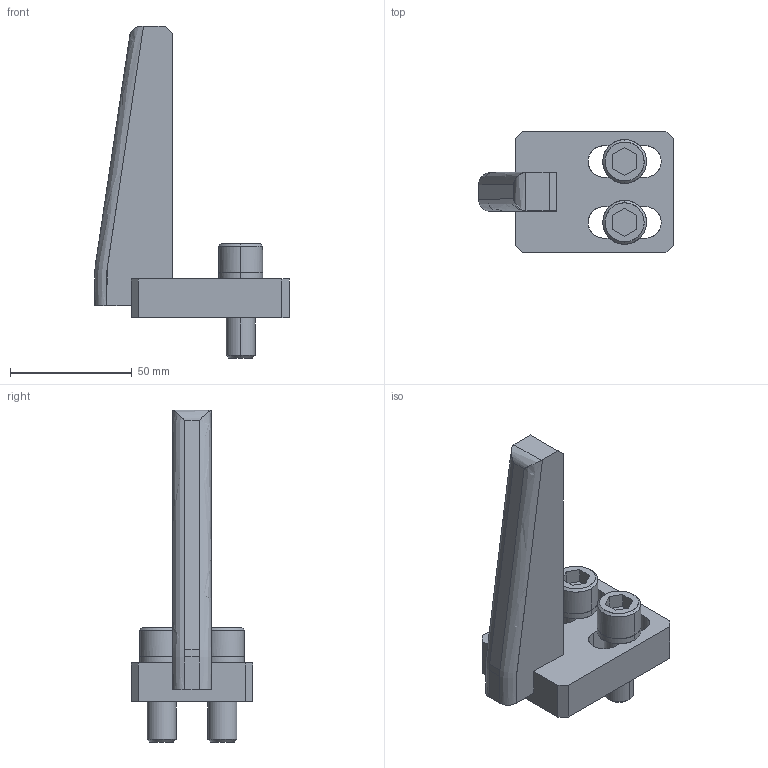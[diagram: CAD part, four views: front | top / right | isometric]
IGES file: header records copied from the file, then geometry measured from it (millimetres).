
Global section: file name: E:\UnigraphicsGraphicData\MISUMI_PRESS-PARTS\IGES\3d_ngga-120-20-15_01475_r00.igs; native system: NX V5.0; preprocessor: UGS NX IGES V5.0; author: MISUMI; date: 20110105.162027; units: millimetre
Bounding box: 80 x 50 x 136.5 mm (x, y, z)
Surface area: 27881.2 mm2 (no closed solid volume)
Topology: 0 solids, 0 shells, 103 faces, 657 edges, 657 vertices
Faces by surface type: bspline 103
